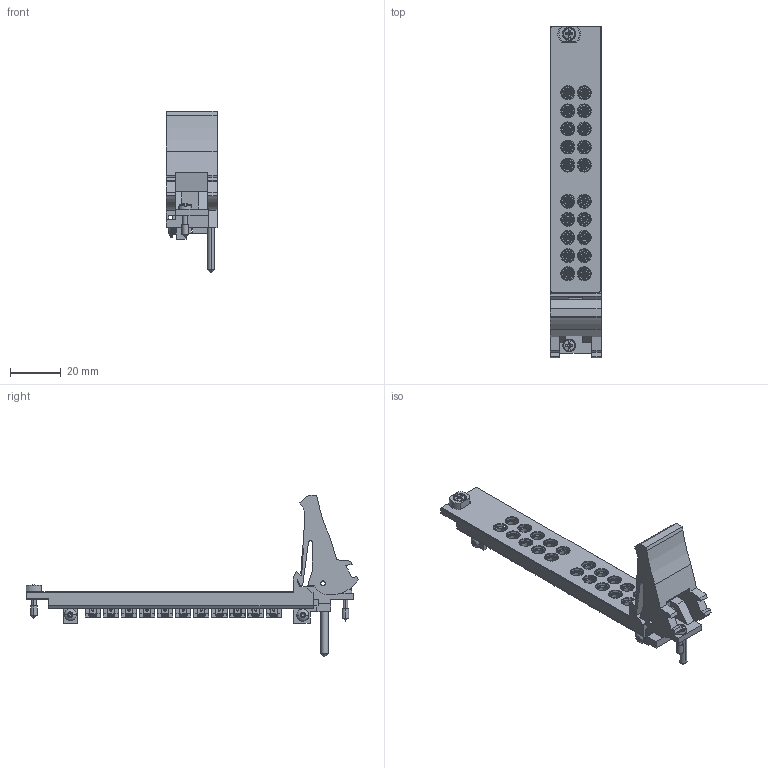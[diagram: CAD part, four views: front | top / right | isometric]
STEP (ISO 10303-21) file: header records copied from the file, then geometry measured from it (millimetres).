
FILE_DESCRIPTION((''),'2;1');
FILE_NAME('CU_PXIE-2746','2015-05-07T',('mshaw'),(''),'PRO/ENGINEER BY PARAMETRIC TECHNOLOGY CORPORATION, 2014000','PRO/ENGINEER BY PARAMETRIC TECHNOLOGY CORPORATION, 2014000','');
FILE_SCHEMA(('CONFIG_CONTROL_DESIGN'));
Length unit declared in the file: inch
Products named in the file (1): CU_PXIE-2746
Bounding box: 20.31 x 130.5 x 63.53 mm (x, y, z)
Volume: 18627.1 mm3; surface area: 23003.3 mm2
Topology: 23 solids, 23 shells, 3382 faces, 9395 edges, 6215 vertices
Faces by surface type: plane 1604, cylinder 1188, cone 532, bspline 34, torus 12, sphere 8, extrusion 4
Entity records: 123822 total; most frequent: CARTESIAN_POINT 36290, ORIENTED_EDGE 18774, DIRECTION 18125, EDGE_CURVE 9387, AXIS2_PLACEMENT_3D 6565, VERTEX_POINT 6215, VECTOR 4995, LINE 4991
